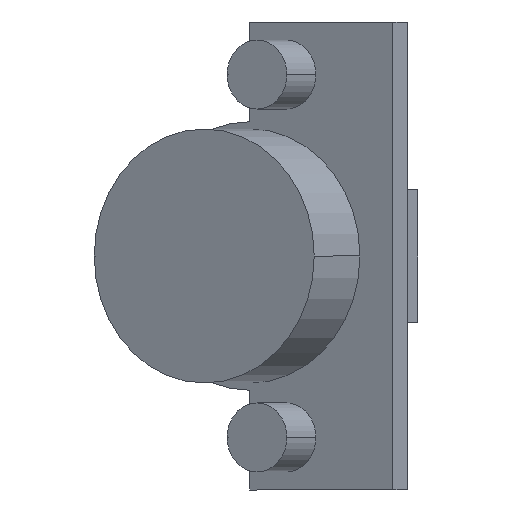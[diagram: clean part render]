
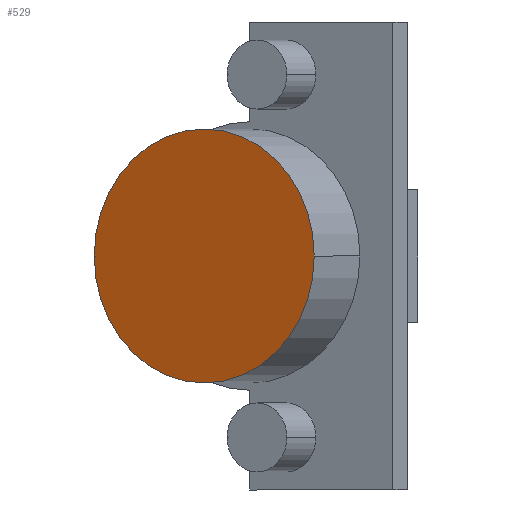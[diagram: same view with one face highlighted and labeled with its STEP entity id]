
A CAD part, front view. The second image highlights one B-rep face of the part: STEP entity #529.
In plain terms, the highlighted planar face has unit normal (-0.5, -0.866, 0).
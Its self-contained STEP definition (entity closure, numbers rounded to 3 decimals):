
#116 = EDGE_CURVE ( 'NONE', #231, #189, #983, .T. ) ;
#133 = EDGE_CURVE ( 'NONE', #189, #231, #1004, .T. ) ;
#156 = AXIS2_PLACEMENT_3D ( 'NONE', #497, #501, #502 ) ;
#170 = AXIS2_PLACEMENT_3D ( 'NONE', #1340, #1346, #1347 ) ;
#189 = VERTEX_POINT ( 'NONE', #1377 ) ;
#231 = VERTEX_POINT ( 'NONE', #1428 ) ;
#497 = CARTESIAN_POINT ( 'NONE',  ( -3.613, -10.912, 0. ) ) ;
#501 = DIRECTION ( 'NONE',  ( -0.5, -0.866, 0. ) ) ;
#502 = DIRECTION ( 'NONE',  ( 0.866, -0.5, 0. ) ) ;
#529 = ADVANCED_FACE ( 'NONE', ( #1041 ), #1513, .T. ) ;
#565 = AXIS2_PLACEMENT_3D ( 'NONE', #1516, #1522, #1523 ) ;
#983 = CIRCLE ( 'NONE', #156, 17.5 ) ;
#1004 = CIRCLE ( 'NONE', #170, 17.5 ) ;
#1041 = FACE_OUTER_BOUND ( 'NONE', #1273, .T. ) ;
#1185 = ORIENTED_EDGE ( 'NONE', *, *, #133, .T. ) ;
#1186 = ORIENTED_EDGE ( 'NONE', *, *, #116, .T. ) ;
#1273 = EDGE_LOOP ( 'NONE', ( #1185, #1186 ) ) ;
#1340 = CARTESIAN_POINT ( 'NONE',  ( -3.613, -10.912, 0. ) ) ;
#1346 = DIRECTION ( 'NONE',  ( -0.5, -0.866, 0. ) ) ;
#1347 = DIRECTION ( 'NONE',  ( 0.866, -0.5, 0. ) ) ;
#1377 = CARTESIAN_POINT ( 'NONE',  ( -18.768, -2.162, 0. ) ) ;
#1428 = CARTESIAN_POINT ( 'NONE',  ( 11.542, -19.662, 0. ) ) ;
#1513 = PLANE ( 'NONE',  #565 ) ;
#1516 = CARTESIAN_POINT ( 'NONE',  ( -3.613, -10.912, 0. ) ) ;
#1522 = DIRECTION ( 'NONE',  ( -0.5, -0.866, 0. ) ) ;
#1523 = DIRECTION ( 'NONE',  ( 0.866, -0.5, 0. ) ) ;
